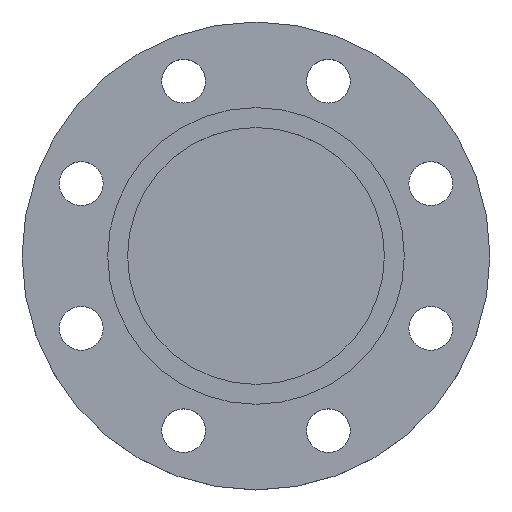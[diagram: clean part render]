
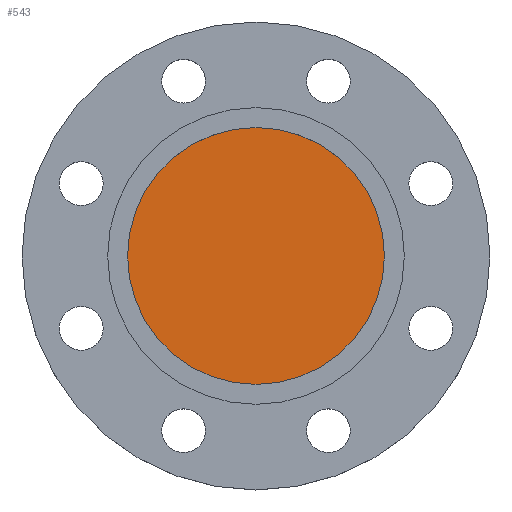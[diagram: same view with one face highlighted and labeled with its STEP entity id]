
A CAD part, top view. The second image highlights one B-rep face of the part: STEP entity #543.
In plain terms, the highlighted planar face has unit normal (0, 0, 1).
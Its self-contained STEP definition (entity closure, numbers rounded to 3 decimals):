
#78 = DIRECTION ( 'NONE',  ( -1., 0., 0. ) ) ;
#120 = AXIS2_PLACEMENT_3D ( 'NONE', #527, #825, #78 ) ;
#121 = CIRCLE ( 'NONE', #120, 64.5 ) ;
#138 = CARTESIAN_POINT ( 'NONE',  ( 64.5, 0., -5. ) ) ;
#143 = CIRCLE ( 'NONE', #148, 64.5 ) ;
#148 = AXIS2_PLACEMENT_3D ( 'NONE', #639, #913, #206 ) ;
#206 = DIRECTION ( 'NONE',  ( -1., 0., 0. ) ) ;
#256 = AXIS2_PLACEMENT_3D ( 'NONE', #138, #497, #808 ) ;
#430 = EDGE_CURVE ( 'NONE', #562, #1022, #143, .T. ) ;
#497 = DIRECTION ( 'NONE',  ( 0., 0., 1. ) ) ;
#527 = CARTESIAN_POINT ( 'NONE',  ( 0., 0., -5. ) ) ;
#543 = ADVANCED_FACE ( 'NONE', ( #592 ), #872, .T. ) ;
#562 = VERTEX_POINT ( 'NONE', #877 ) ;
#592 = FACE_OUTER_BOUND ( 'NONE', #1024, .T. ) ;
#639 = CARTESIAN_POINT ( 'NONE',  ( 0., 0., -5. ) ) ;
#648 = EDGE_CURVE ( 'NONE', #1022, #562, #121, .T. ) ;
#808 = DIRECTION ( 'NONE',  ( 1., 0., 0. ) ) ;
#825 = DIRECTION ( 'NONE',  ( 0., 0., -1. ) ) ;
#872 = PLANE ( 'NONE',  #256 ) ;
#877 = CARTESIAN_POINT ( 'NONE',  ( -64.5, 0., -5. ) ) ;
#903 = ORIENTED_EDGE ( 'NONE', *, *, #430, .F. ) ;
#910 = ORIENTED_EDGE ( 'NONE', *, *, #648, .F. ) ;
#913 = DIRECTION ( 'NONE',  ( 0., 0., -1. ) ) ;
#1022 = VERTEX_POINT ( 'NONE', #1023 ) ;
#1023 = CARTESIAN_POINT ( 'NONE',  ( 64.5, 0., -5. ) ) ;
#1024 = EDGE_LOOP ( 'NONE', ( #903, #910 ) ) ;
